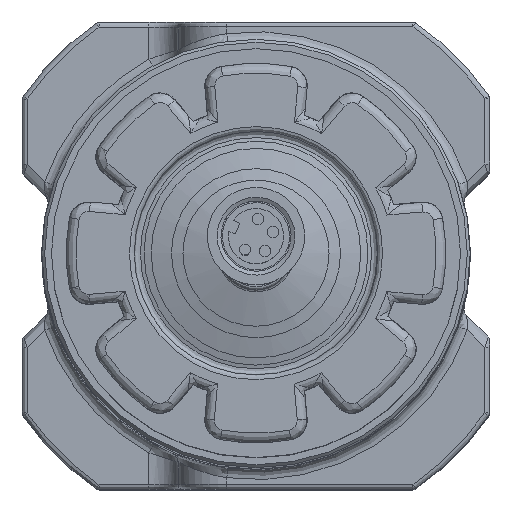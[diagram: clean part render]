
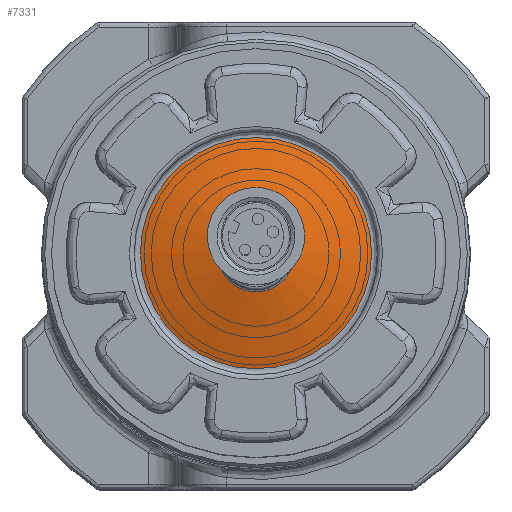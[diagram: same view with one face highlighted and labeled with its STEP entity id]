
A CAD part, top view. The second image highlights one B-rep face of the part: STEP entity #7331.
In plain terms, the highlighted conical face has half-angle 75 degrees and reference radius 3.75 mm.
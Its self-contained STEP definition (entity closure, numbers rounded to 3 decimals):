
#113=CONICAL_SURFACE('',#8127,3.75,1.309);
#628=FACE_OUTER_BOUND('',#1108,.T.);
#1108=EDGE_LOOP('',(#5886,#5887,#5888,#5889));
#1779=CIRCLE('',#8095,11.871);
#1800=CIRCLE('',#8117,3.972);
#2200=LINE('',#16975,#2646);
#2646=VECTOR('',#9860,3.75);
#3271=VERTEX_POINT('',#16825);
#3294=VERTEX_POINT('',#16955);
#4194=EDGE_CURVE('',#3271,#3271,#1779,.T.);
#4219=EDGE_CURVE('',#3294,#3294,#1800,.T.);
#4230=EDGE_CURVE('',#3271,#3294,#2200,.T.);
#5886=ORIENTED_EDGE('',*,*,#4194,.T.);
#5887=ORIENTED_EDGE('',*,*,#4230,.T.);
#5888=ORIENTED_EDGE('',*,*,#4219,.T.);
#5889=ORIENTED_EDGE('',*,*,#4230,.F.);
#7331=ADVANCED_FACE('',(#628),#113,.T.);
#8095=AXIS2_PLACEMENT_3D('',#16827,#9787,#9788);
#8117=AXIS2_PLACEMENT_3D('',#16956,#9833,#9834);
#8127=AXIS2_PLACEMENT_3D('',#16974,#9858,#9859);
#9787=DIRECTION('center_axis',(0.,0.,1.));
#9788=DIRECTION('ref_axis',(1.,-0.001,0.));
#9833=DIRECTION('center_axis',(0.,0.,-1.));
#9834=DIRECTION('ref_axis',(1.,-0.001,0.));
#9858=DIRECTION('center_axis',(0.,0.,-1.));
#9859=DIRECTION('ref_axis',(1.,-0.001,0.));
#9860=DIRECTION('',(0.966,-0.001,0.259));
#16825=CARTESIAN_POINT('',(3.816,0.017,120.608));
#16827=CARTESIAN_POINT('Origin',(15.686,0.,120.608));
#16955=CARTESIAN_POINT('',(11.714,0.006,122.724));
#16956=CARTESIAN_POINT('Origin',(15.686,0.,122.724));
#16974=CARTESIAN_POINT('Origin',(15.686,0.,122.783));
#16975=CARTESIAN_POINT('',(11.936,0.005,122.783));
